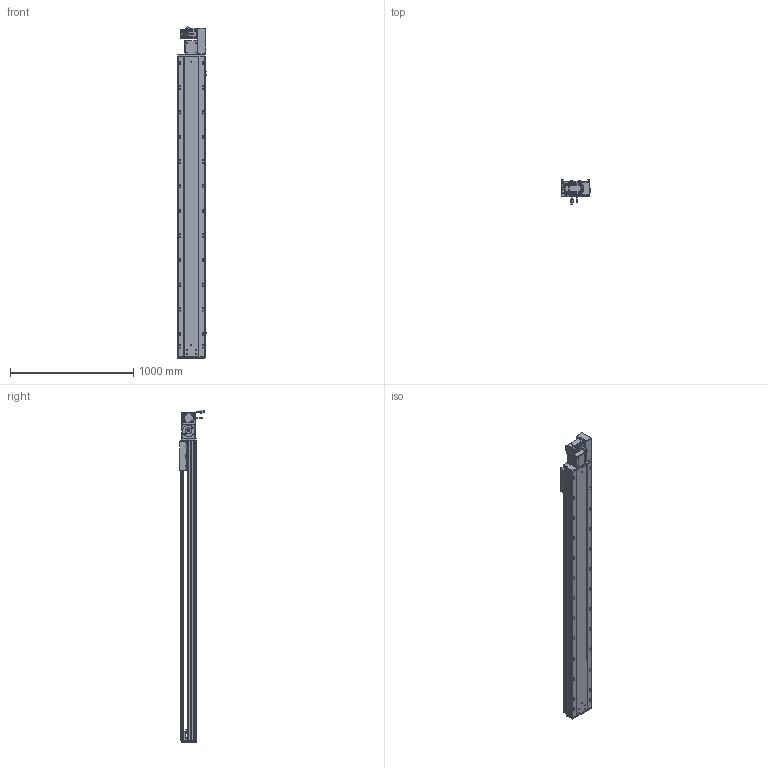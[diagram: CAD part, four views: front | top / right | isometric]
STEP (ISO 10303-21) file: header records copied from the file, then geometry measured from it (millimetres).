
FILE_DESCRIPTION (( 'STEP AP203' ), '1' );
FILE_NAME ('RY220-T-300-RK.SLDASM_2100.step', '2022-07-25T08:24:32', ( '' ), ( '' ), 'SwSTEP 2.0', 'SolidWorks 2016', '' );
FILE_SCHEMA (( 'CONFIG_CONTROL_DESIGN' ));
Length unit declared in the file: millimetre
Products named in the file (14): RY220-俋离672覜茼んえ; 110A-T-肮祭謫釱傷裔; 覜茼ん672; RY220翋肮祭謫裔啣; RY220-T菁釱-300_2100; RY220-T-300-RK.SLDASM_2100; RY220翋肮祭謫釱; RY220-T-蛌殏萇儂假蚾啣(750W); RY220-T-300-奻裔啣_2100; RY220-T-湍謫欶(鍼踢); 滅袉蝶18-15; RY220-同步轮副支撑座6304×2; RY220圉猾敕々湍臏賑輸; 怢湛750W_ECMA-CX0807ES
Assembly tree (18 placements, depth 2):
  RY220-T-300-RK.SLDASM_2100
    RY220-T菁釱-300_2100
    RY220翋肮祭謫釱
    覜茼ん672  x3
    RY220圉猾敕々湍臏賑輸
    RY220-T-300-奻裔啣_2100
    RY220-俋离672覜茼んえ
    滅袉蝶18-15  x3
    RY220翋肮祭謫裔啣  x2
    110A-T-肮祭謫釱傷裔
    怢湛750W_ECMA-CX0807ES
    RY220-T-湍謫欶(鍼踢)
    RY220-T-蛌殏萇儂假蚾啣(750W)
    RY220-同步轮副支撑座6304×2
Bounding box: 238.7 x 198.77 x 2695.24 mm (x, y, z)
Volume: 19377376.7 mm3; surface area: 5900984.6 mm2
Topology: 19 solids, 19 shells, 2852 faces, 7883 edges, 4962 vertices
Faces by surface type: cylinder 1380, plane 1069, cone 321, bspline 56, sphere 16, torus 10
Entity records: 95059 total; most frequent: CARTESIAN_POINT 26941, ORIENTED_EDGE 14106, DIRECTION 13508, EDGE_CURVE 7053, AXIS2_PLACEMENT_3D 4838, VERTEX_POINT 4586, LINE 3832, VECTOR 3832
